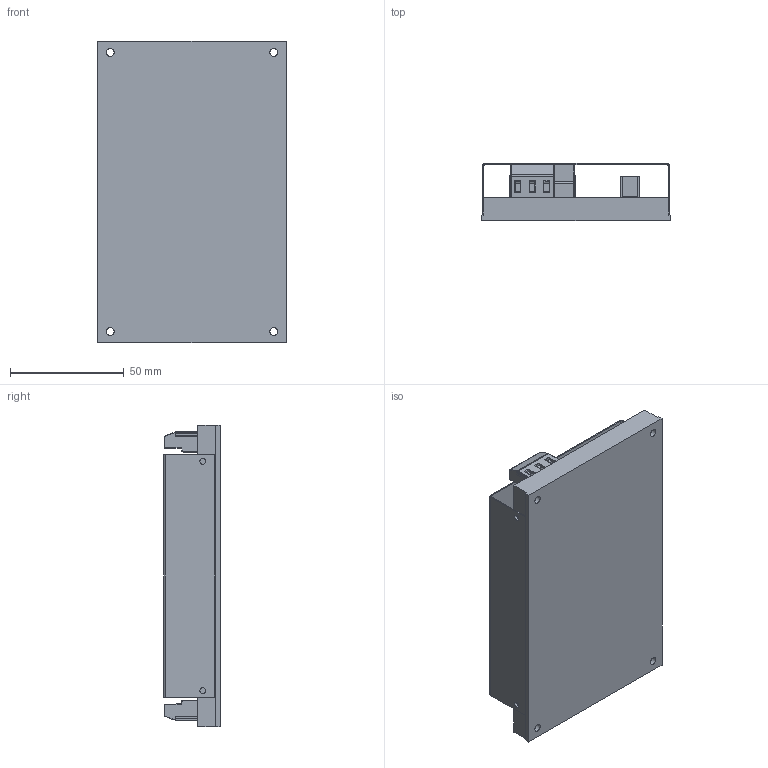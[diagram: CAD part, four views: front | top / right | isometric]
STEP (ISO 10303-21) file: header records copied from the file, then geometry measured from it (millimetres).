
FILE_DESCRIPTION(/* description */ (''),/* implementation_level */ '2;1');
FILE_NAME(/* name */ '',/* time_stamp */ '',/* author */ (''),/* organization */ (''),/* preprocessor_version */ '',/* originating_system */ '',/* authorisation */ '');
FILE_SCHEMA (('AUTOMOTIVE_DESIGN { 1 0 10303 214 3 1 1 }'));
Length unit declared in the file: inch
Products named in the file (1): JETA300-LP_D_full
Bounding box: 83 x 25 x 133 mm (x, y, z)
Volume: 113693.7 mm3; surface area: 55478.2 mm2
Topology: 1 solids, 6 shells, 798 faces, 1969 edges, 1184 vertices
Faces by surface type: plane 282, cylinder 240, cone 201, torus 57, sphere 12, bspline 6
Full cylindrical faces by diameter (mm): 0.85 x2, 1.7 x98, 2.5 x4, 3.4 x11
Entity records: 21639 total; most frequent: CARTESIAN_POINT 3890, DIRECTION 3755, ORIENTED_EDGE 2976, AXIS2_PLACEMENT_3D 1490, EDGE_CURVE 1481, EDGE_LOOP 1169, VERTEX_POINT 1031, FACE_OUTER_BOUND 798
